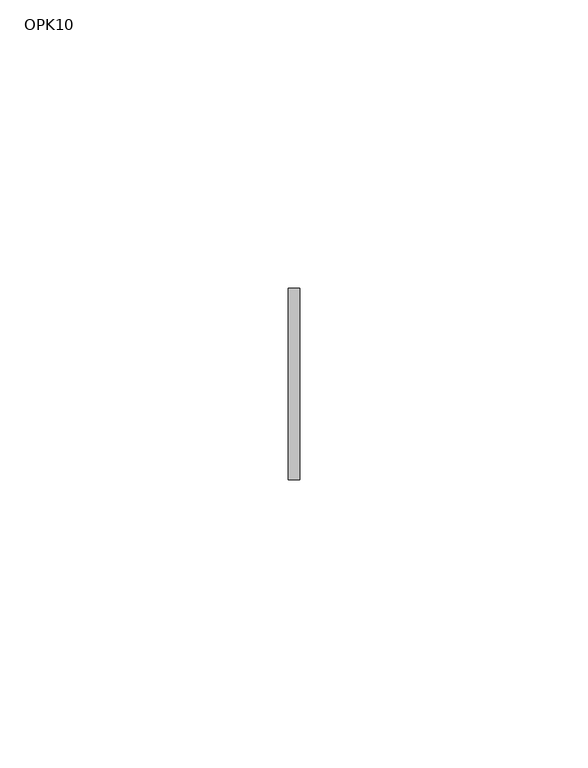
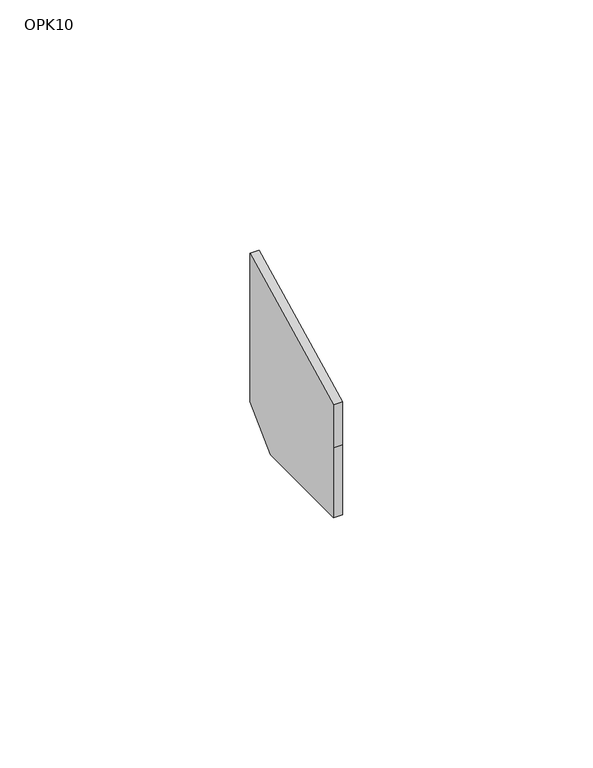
"""IFC4 building model written with IfcOpenShell, lengths in millimetres: proxy geometry, Odbojnik - OPK10 : OPK10."""

from ifc_helpers import new_model, si_unit, frame, origin, place, context, project, spatial, polyline, outline, extrude, source, transform, mapped, element, save


def opk10_62074a0a(model_context):
    return source(origin(), model_context, "Body", "SweptSolid", [
        extrude(outline(polyline([(57.8190449, 30.1268075), (49.8190451, 22.1268077), (24.5190457, 22.1268077), (24.5190457, 39.1803622), (24.5190457, 49.6664297), (57.8190449, 66.3164298), (57.8190449, 30.1268075)])), frame((-3.0, 0.0, 0.0), z_axis=(1.0, 0.0, 0.0), x_axis=(0.0, 1.0, 0.0)), (0.0, 0.0, 1.0), 2.0),
    ])


if __name__ == "__main__":
    model = new_model("IFC4")
    model_context = context("Model", 3, world=origin())
    ifc_project = project(units=[si_unit("LENGTHUNIT", "METRE", prefix="MILLI")], contexts=[model_context])
    site = spatial("IfcSite", under=ifc_project)
    building = spatial("IfcBuilding", under=site)
    placement = place(None, origin())
    opk10_shape = opk10_62074a0a(model_context)
    element("IfcBuildingElementProxy", 1, Name="Odbojnik - OPK10 : OPK10", ObjectType="Odbojnik - OPK10 : OPK10", at=placement, inside=building, context=model_context, shape_type="MappedRepresentation", body=[
        mapped(opk10_shape, transform((0.0, 0.0, 0.0), x_axis=(1.0, 0.0, 0.0), y_axis=(0.0, 1.0, 0.0), z_axis=(0.0, 0.0, 1.0))),
    ])
    save(model, "model.ifc")
